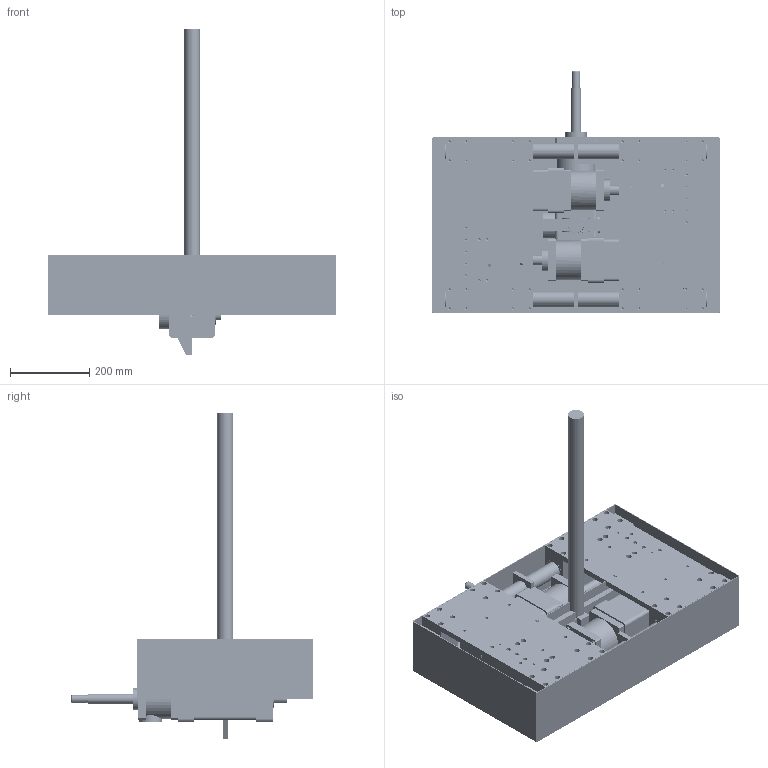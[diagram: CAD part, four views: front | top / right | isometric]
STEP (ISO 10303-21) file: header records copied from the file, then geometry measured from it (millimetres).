
FILE_DESCRIPTION( ( 'Unknown' ), '1' );
FILE_NAME( 'C:/!Documents/Etudes/BZ Pince Cinetic/GSA 100.stp', 'Unknown', ( 'Unknown' ), ( 'Unknown' ), 'PSStep 11.0', 'Unknown', ' ' );
FILE_SCHEMA( ( 'AUTOMOTIVE_DESIGN { 1 0 10303 214 1 1 1 1 }' ) );
Length unit declared in the file: millimetre
Products named in the file (28): Assem1; Cr幦ailli鋨e_0; Joint torique D15x3_1; BZ21 Axe_2; Bague Igus_3; TLA1212_4; BZ20 Roue_5; Douille 40x52x60_6; Ressort Rabourdin 50x25x64_7; BZ19 Embout de tige vérin_8; BZ18 Support vérin_9; BZ17 Renfort plaque de base_10; BZ15 Renfort_11; BZ14 plaque attache_12; BZ13 Tige_13; BZ09 T犨e d'extr幦it嶱14; BZ08 Tôle latérale_15; BZ10 Bloc central 1_16; BZ06 Cloche_17; BZ05 Doigt_18; BZ11 Bloc central 2_19; BZ07 Support central_20; BZ04 Porte Douille_21; BZ03 Arbre 40_22; BZ12 Chapeau_23; BZ02 Support arbre_24; Vérin D100 x 100_25; BZ01 Plaque de base_26
Bounding box: 724 x 612 x 820 mm (x, y, z)
Volume: 35450721.7 mm3; surface area: 5665498.2 mm2
Topology: 96 solids, 96 shells, 2389 faces, 5878 edges, 3938 vertices
Faces by surface type: plane 1151, cylinder 944, cone 183, extrusion 96, bspline 12, torus 3
Full cylindrical faces by diameter (mm): 4.917 x101, 6 x12, 6.2 x45, 6.5 x76, 6.647 x66, 8 x27, 8.376 x61, 8.5 x88, 10 x22, 10.5 x10, 10.584 x3, 11 x82, 12 x10, 14 x79, 15 x3, 16 x3, 18 x9, 20 x17, 20.2 x4, 21 x4, 21.963 x6, 23 x13, 25 x3, 25.8 x3, 28 x3, 30 x3, 40 x20, 45 x3, 49 x3, 50 x9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
Entity records: 33862 total; most frequent: CARTESIAN_POINT 7503, DIRECTION 3992, ORIENTED_EDGE 3158, AXIS2_PLACEMENT_3D 1607, EDGE_CURVE 1579, EDGE_LOOP 1572, VERTEX_POINT 1294, FACE_OUTER_BOUND 1140
